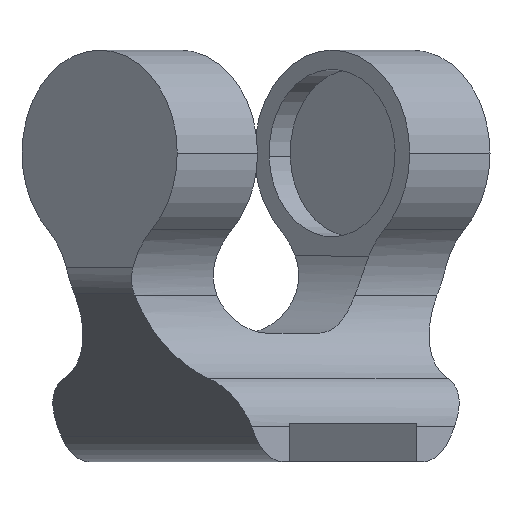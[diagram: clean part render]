
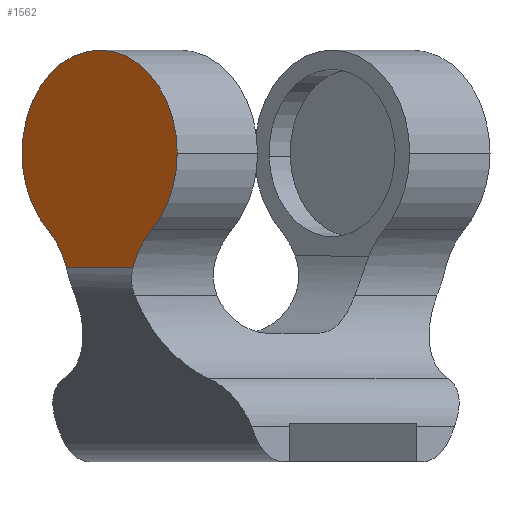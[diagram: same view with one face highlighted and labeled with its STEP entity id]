
A CAD part, left-side view. The second image highlights one B-rep face of the part: STEP entity #1562.
In plain terms, the highlighted planar face has unit normal (-0.754, 0.657, 0).
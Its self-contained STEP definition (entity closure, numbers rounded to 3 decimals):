
#3 = FACE_OUTER_BOUND ( 'NONE', #65, .T. ) ;
#26 = EDGE_CURVE ( 'NONE', #1525, #1974, #1397, .T. ) ;
#62 = CARTESIAN_POINT ( 'NONE',  ( -58.122, 3.12, -840.318 ) ) ;
#65 = EDGE_LOOP ( 'NONE', ( #1026, #1994, #283, #966, #2075, #853 ) ) ;
#92 = CARTESIAN_POINT ( 'NONE',  ( -48.031, 14.702, -835.179 ) ) ;
#118 = PLANE ( 'NONE',  #1817 ) ;
#169 = VERTEX_POINT ( 'NONE', #650 ) ;
#242 = EDGE_CURVE ( 'NONE', #1280, #1797, #1325, .T. ) ;
#283 = ORIENTED_EDGE ( 'NONE', *, *, #26, .T. ) ;
#326 = EDGE_CURVE ( 'NONE', #1974, #169, #707, .T. ) ;
#355 = DIRECTION ( 'NONE',  ( 0.657, 0.754, 0. ) ) ;
#387 = DIRECTION ( 'NONE',  ( -0.754, 0.657, 0. ) ) ;
#389 = CARTESIAN_POINT ( 'NONE',  ( -51.553, 10.66, -829.241 ) ) ;
#403 = VECTOR ( 'NONE', #873, 1000. ) ;
#419 = EDGE_CURVE ( 'NONE', #1797, #1525, #1535, .T. ) ;
#526 = DIRECTION ( 'NONE',  ( -0.657, -0.754, 0. ) ) ;
#533 = CARTESIAN_POINT ( 'NONE',  ( -51.553, 10.66, -829.241 ) ) ;
#631 = AXIS2_PLACEMENT_3D ( 'NONE', #1328, #2032, #355 ) ;
#650 = CARTESIAN_POINT ( 'NONE',  ( -56.808, 4.628, -829.241 ) ) ;
#707 = CIRCLE ( 'NONE', #987, 8. ) ;
#712 = DIRECTION ( 'NONE',  ( 0.657, 0.754, 0. ) ) ;
#796 = CARTESIAN_POINT ( 'NONE',  ( -46.298, 16.692, -829.241 ) ) ;
#853 = ORIENTED_EDGE ( 'NONE', *, *, #2102, .T. ) ;
#873 = DIRECTION ( 'NONE',  ( -0.657, -0.754, 0. ) ) ;
#899 = CIRCLE ( 'NONE', #1156, 8. ) ;
#908 = CARTESIAN_POINT ( 'NONE',  ( -44.984, 18.2, -840.318 ) ) ;
#954 = CARTESIAN_POINT ( 'NONE',  ( -55.074, 6.618, -835.179 ) ) ;
#957 = CARTESIAN_POINT ( 'NONE',  ( -44.984, 18.2, -840.318 ) ) ;
#966 = ORIENTED_EDGE ( 'NONE', *, *, #326, .T. ) ;
#987 = AXIS2_PLACEMENT_3D ( 'NONE', #389, #2043, #712 ) ;
#1026 = ORIENTED_EDGE ( 'NONE', *, *, #242, .T. ) ;
#1156 = AXIS2_PLACEMENT_3D ( 'NONE', #533, #387, #1207 ) ;
#1173 = CARTESIAN_POINT ( 'NONE',  ( -49.307, 13.238, -838.169 ) ) ;
#1207 = DIRECTION ( 'NONE',  ( 0.657, 0.754, 0. ) ) ;
#1266 = CIRCLE ( 'NONE', #631, 8. ) ;
#1280 = VERTEX_POINT ( 'NONE', #92 ) ;
#1325 = CIRCLE ( 'NONE', #2026, 6.923 ) ;
#1328 = CARTESIAN_POINT ( 'NONE',  ( -51.553, 10.66, -829.241 ) ) ;
#1397 = CIRCLE ( 'NONE', #1748, 6.923 ) ;
#1412 = DIRECTION ( 'NONE',  ( -0.657, -0.754, 0.033 ) ) ;
#1525 = VERTEX_POINT ( 'NONE', #1540 ) ;
#1535 = LINE ( 'NONE', #1675, #403 ) ;
#1540 = CARTESIAN_POINT ( 'NONE',  ( -53.798, 8.083, -838.169 ) ) ;
#1562 = ADVANCED_FACE ( 'NONE', ( #3 ), #118, .T. ) ;
#1567 = DIRECTION ( 'NONE',  ( 0.754, -0.657, 0. ) ) ;
#1675 = CARTESIAN_POINT ( 'NONE',  ( -44.984, 18.2, -838.169 ) ) ;
#1686 = VERTEX_POINT ( 'NONE', #796 ) ;
#1748 = AXIS2_PLACEMENT_3D ( 'NONE', #62, #1910, #526 ) ;
#1797 = VERTEX_POINT ( 'NONE', #1173 ) ;
#1817 = AXIS2_PLACEMENT_3D ( 'NONE', #957, #1960, #1412 ) ;
#1910 = DIRECTION ( 'NONE',  ( 0.754, -0.657, 0. ) ) ;
#1960 = DIRECTION ( 'NONE',  ( -0.754, 0.657, 0. ) ) ;
#1974 = VERTEX_POINT ( 'NONE', #954 ) ;
#1994 = ORIENTED_EDGE ( 'NONE', *, *, #419, .T. ) ;
#2026 = AXIS2_PLACEMENT_3D ( 'NONE', #908, #1567, #2065 ) ;
#2032 = DIRECTION ( 'NONE',  ( -0.754, 0.657, 0. ) ) ;
#2043 = DIRECTION ( 'NONE',  ( -0.754, 0.657, 0. ) ) ;
#2065 = DIRECTION ( 'NONE',  ( -0.657, -0.754, 0. ) ) ;
#2075 = ORIENTED_EDGE ( 'NONE', *, *, #2161, .T. ) ;
#2102 = EDGE_CURVE ( 'NONE', #1686, #1280, #1266, .T. ) ;
#2161 = EDGE_CURVE ( 'NONE', #169, #1686, #899, .T. ) ;
